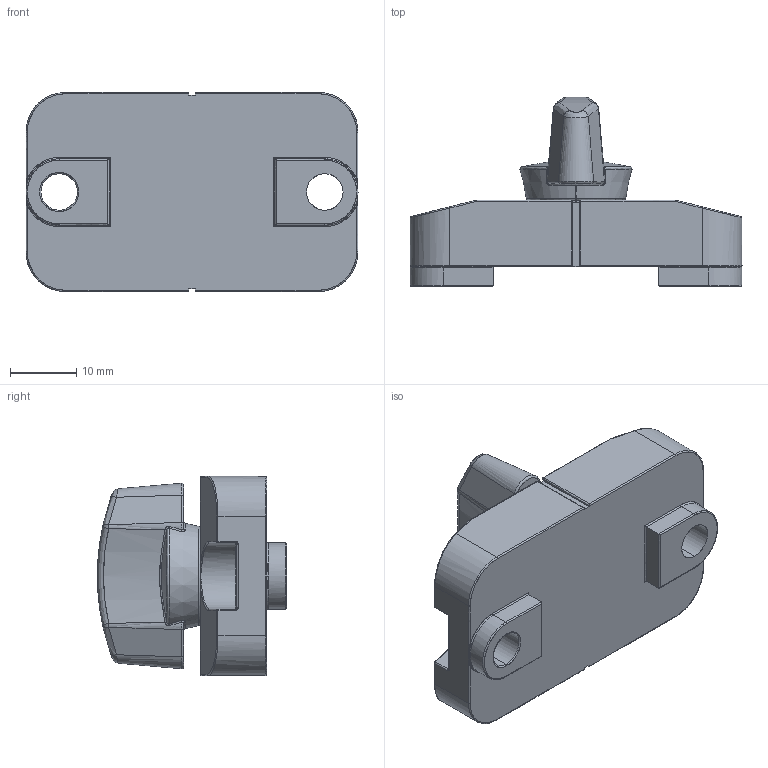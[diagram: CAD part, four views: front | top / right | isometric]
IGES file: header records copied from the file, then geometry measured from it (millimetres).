
Start section: SolidWorks IGES file using analytic representation for surfaces
Global section: file name: C:\Users\liam_\OneDrive\Documents\WORK\Work for WixRoyd\Job Files\J-00027 - IOWA CAD Modelling\04. CAD Drawings\33970_v1_20191216\33970_v1_20291216_IGES\Default.igs; native system: SolidWorks 2017; preprocessor: SolidWorks 2017; author: liam_; date: 200210.214358; units: millimetre
Bounding box: 50 x 28.5 x 30 mm (x, y, z)
Surface area: 6392 mm2 (no closed solid volume)
Topology: 0 solids, 0 shells, 310 faces, 2868 edges, 2855 vertices
Faces by surface type: bspline 206, revolution 104
